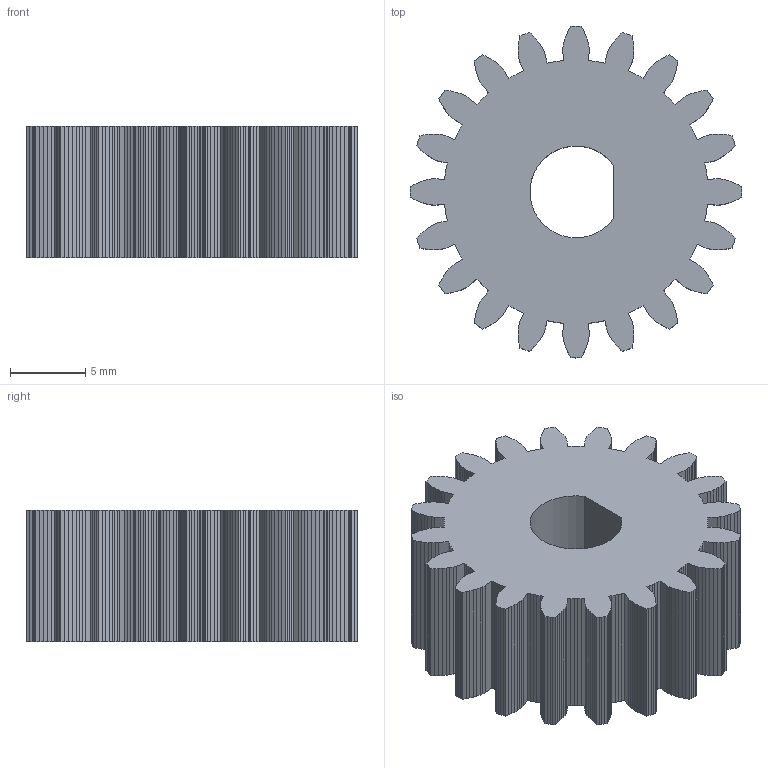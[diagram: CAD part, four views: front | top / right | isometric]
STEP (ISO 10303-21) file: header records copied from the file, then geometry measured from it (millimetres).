
FILE_DESCRIPTION(('Open CASCADE Model'),'2;1');
FILE_NAME('Open CASCADE Shape Model','2026-10-15T20:06:58',('Author'),( 'Open CASCADE'),'Open CASCADE STEP processor 7.9','Open CASCADE 7.9' ,'Unknown');
FILE_SCHEMA(('AUTOMOTIVE_DESIGN { 1 0 10303 214 1 1 1 1 }'));
Length unit declared in the file: millimetre
Products named in the file (1): Open CASCADE STEP translator 7.9 7
Bounding box: 22 x 22 x 8.7 mm (x, y, z)
Volume: 2422.8 mm3; surface area: 1866.8 mm2
Topology: 1 solids, 1 shells, 504 faces, 1506 edges, 1004 vertices
Faces by surface type: plane 503, cylinder 1
Entity records: 36190 total; most frequent: CARTESIAN_POINT 6039, DIRECTION 5528, LINE 4514, VECTOR 4514, ORIENTED_EDGE 3012, PCURVE 3012, DEFINITIONAL_REPRESENTATION 3012, EDGE_CURVE 1506
